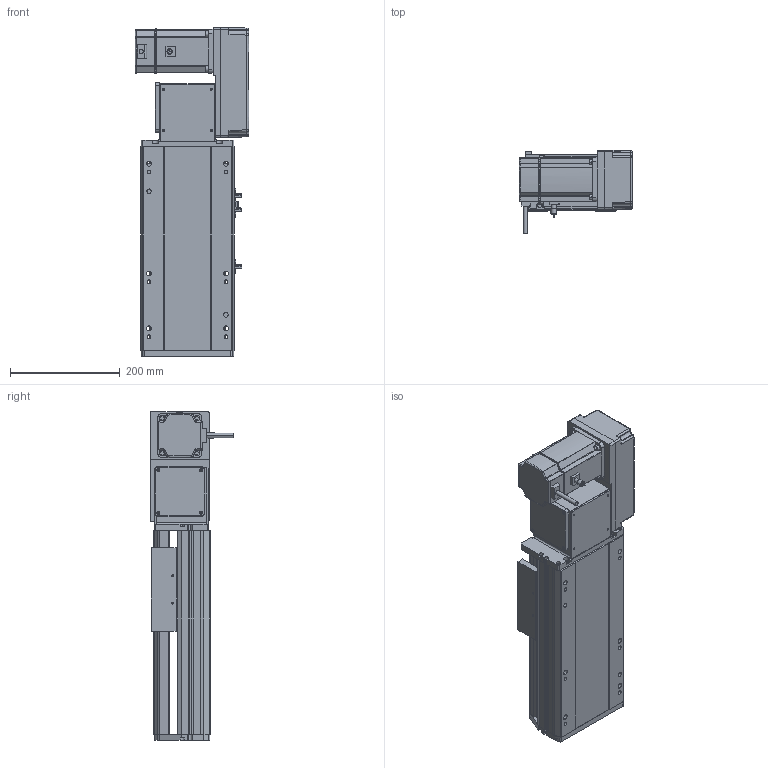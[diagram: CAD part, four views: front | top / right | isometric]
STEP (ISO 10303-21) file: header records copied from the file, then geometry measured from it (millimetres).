
FILE_DESCRIPTION (( 'STEP AP214' ), '1' );
FILE_NAME ('RTB17S-XX-100-R-M75-C4.STEP', '2025-12-12T01:27:56', ( '' ), ( '' ), 'SwSTEP 2.0', 'SolidWorks 2018', '' );
FILE_SCHEMA (( 'AUTOMOTIVE_DESIGN' ));
Length unit declared in the file: millimetre
Products named in the file (15): RTB22S-GY-018P^RTB17S-R-々湍釱蚾饜-750W_RTB17S-XX-XX-R-M75-C4; RTB22S-GY-008-M75--萇儂啣^RTB17S-R-々湍釱蚾饜-750W_RTB17S-XX-XX-R-M75-C4; RTB17S-L-007奻裔^RTB17S-XX-XX-R-M75-C4; RTB17S-L-004-賑釱^RTB17S-賑釱_RTB17S-XX-XX-R-M75-C4; RTB22S-GY-017P^RTB17S-R-々湍釱蚾饜-750W_RTB17S-XX-XX-R-M75-C4; RTB17S-L-014-T20-P75--々湍釱^RTB17S-R-々湍釱蚾饜-750W_RTB17S-XX-XX-R-M75-C4; RTB17-R-011菁釱^RTB17S-XX-XX-R-M75-C4; EE672^RTB17S-XX-XX-R-M75-C4; 750W萇儂^RTB17S-XX-XX-R-M75-C4; RTB17S-L-001-耜醱啣^RTB17S-XX-XX-R-M75-C4; RTB17S-賑釱^RTB17S-XX-XX-R-M75-C4; RTB22S-GY-005P^RTB17S-R-々湍釱蚾饜-750W_RTB17S-XX-XX-R-M75-C4; RTB17S-XX-100-R-M75-C4; RTH13-BL-012覜茼え俋离^RTB17S-賑釱_RTB17S-XX-XX-R-M75-C4; RTB17S-R-々湍釱蚾饜-750W^RTB17S-XX-XX-R-M75-C4
Assembly tree (17 placements, depth 3):
  RTB17S-XX-100-R-M75-C4
    RTB17-R-011菁釱^RTB17S-XX-XX-R-M75-C4
    EE672^RTB17S-XX-XX-R-M75-C4  x3
    RTB17S-L-001-耜醱啣^RTB17S-XX-XX-R-M75-C4
    RTB17S-賑釱^RTB17S-XX-XX-R-M75-C4
      RTB17S-L-004-賑釱^RTB17S-賑釱_RTB17S-XX-XX-R-M75-C4
      RTH13-BL-012覜茼え俋离^RTB17S-賑釱_RTB17S-XX-XX-R-M75-C4
    RTB17S-L-007奻裔^RTB17S-XX-XX-R-M75-C4
    750W萇儂^RTB17S-XX-XX-R-M75-C4
    RTB17S-R-々湍釱蚾饜-750W^RTB17S-XX-XX-R-M75-C4
      RTB17S-L-014-T20-P75--々湍釱^RTB17S-R-々湍釱蚾饜-750W_RTB17S-XX-XX-R-M75-C4
      RTB22S-GY-005P^RTB17S-R-々湍釱蚾饜-750W_RTB17S-XX-XX-R-M75-C4
      RTB22S-GY-017P^RTB17S-R-々湍釱蚾饜-750W_RTB17S-XX-XX-R-M75-C4  x2
      RTB22S-GY-008-M75--萇儂啣^RTB17S-R-々湍釱蚾饜-750W_RTB17S-XX-XX-R-M75-C4
      RTB22S-GY-018P^RTB17S-R-々湍釱蚾饜-750W_RTB17S-XX-XX-R-M75-C4
Bounding box: 207.4 x 152.7 x 599 mm (x, y, z)
Volume: 6572475 mm3; surface area: 966322.1 mm2
Topology: 17 solids, 17 shells, 2025 faces, 5566 edges, 3590 vertices
Faces by surface type: plane 962, cylinder 647, bspline 294, cone 110, sphere 8, torus 4
Entity records: 55030 total; most frequent: CARTESIAN_POINT 16030, ORIENTED_EDGE 7976, DIRECTION 7502, EDGE_CURVE 3988, AXIS2_PLACEMENT_3D 2610, VERTEX_POINT 2594, VECTOR 2282, LINE 2282
